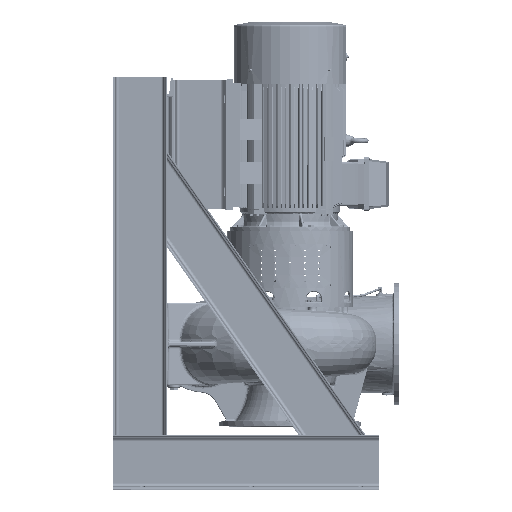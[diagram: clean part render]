
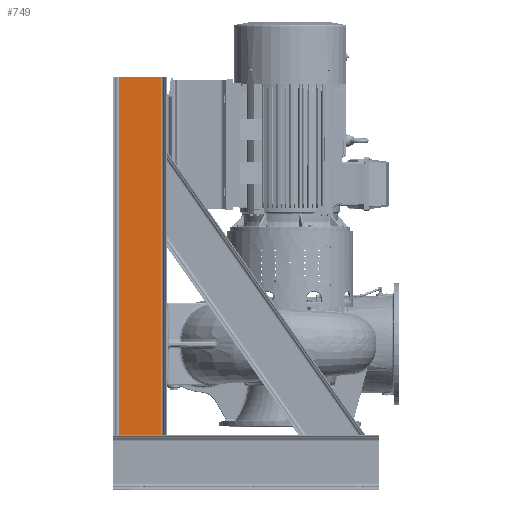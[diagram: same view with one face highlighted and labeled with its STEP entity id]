
A CAD part, top view. The second image highlights one B-rep face of the part: STEP entity #749.
In plain terms, the highlighted planar face has unit normal (0, 0, 1) as drawn and (0, -1, 0) by its records, which use the part's own axes.
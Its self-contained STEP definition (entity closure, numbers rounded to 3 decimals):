
#409=DIRECTION('',(1.,0.,0.));
#410=VECTOR('',#409,231.04);
#411=CARTESIAN_POINT('',(-115.52,-10.,-985.));
#412=LINE('',#411,#410);
#471=DIRECTION('',(0.,0.,1.));
#472=VECTOR('',#471,1970.);
#473=CARTESIAN_POINT('',(115.52,-10.,-985.));
#474=LINE('',#473,#472);
#475=DIRECTION('',(0.,0.,1.));
#476=VECTOR('',#475,1970.);
#477=CARTESIAN_POINT('',(-115.52,-10.,-985.));
#478=LINE('',#477,#476);
#525=DIRECTION('',(1.,0.,0.));
#526=VECTOR('',#525,231.04);
#527=CARTESIAN_POINT('',(-115.52,-10.,985.));
#528=LINE('',#527,#526);
#551=CARTESIAN_POINT('',(-115.52,-10.,-985.));
#552=VERTEX_POINT('',#551);
#553=CARTESIAN_POINT('',(115.52,-10.,-985.));
#554=VERTEX_POINT('',#553);
#575=CARTESIAN_POINT('',(-115.52,-10.,985.));
#576=VERTEX_POINT('',#575);
#577=CARTESIAN_POINT('',(115.52,-10.,985.));
#578=VERTEX_POINT('',#577);
#736=CARTESIAN_POINT('',(-115.52,-10.,-985.));
#737=DIRECTION('',(0.,-1.,0.));
#738=DIRECTION('',(1.,0.,0.));
#739=AXIS2_PLACEMENT_3D('',#736,#737,#738);
#740=PLANE('',#739);
#741=ORIENTED_EDGE('',*,*,#604,.F.);
#743=ORIENTED_EDGE('',*,*,#742,.T.);
#745=ORIENTED_EDGE('',*,*,#744,.T.);
#746=ORIENTED_EDGE('',*,*,#728,.F.);
#747=EDGE_LOOP('',(#741,#743,#745,#746));
#748=FACE_OUTER_BOUND('',#747,.F.);
#749=ADVANCED_FACE('',(#748),#740,.T.);
#604=EDGE_CURVE('',#552,#554,#412,.T.);
#728=EDGE_CURVE('',#554,#578,#474,.T.);
#742=EDGE_CURVE('',#552,#576,#478,.T.);
#744=EDGE_CURVE('',#576,#578,#528,.T.);
